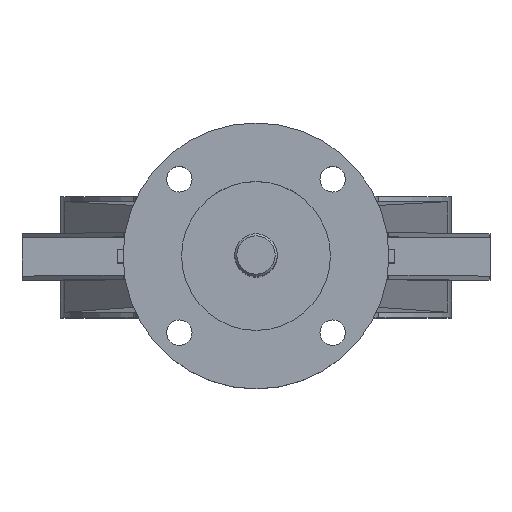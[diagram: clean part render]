
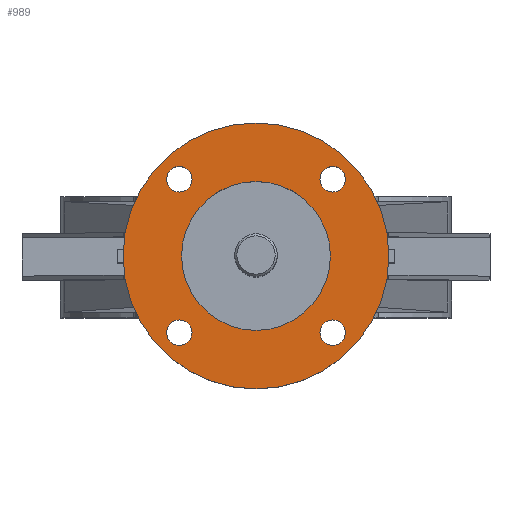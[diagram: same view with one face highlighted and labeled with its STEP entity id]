
A CAD part, top view. The second image highlights one B-rep face of the part: STEP entity #989.
In plain terms, the highlighted planar face has unit normal (0, 0, 1).
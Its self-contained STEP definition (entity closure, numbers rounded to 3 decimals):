
#989=ADVANCED_FACE('',(#2294,#2296,#2298,#2300,#2302,#2304),#2306,.T.);
#2294=FACE_BOUND('',#2295,.T.);
#2295=EDGE_LOOP('',(#3358));
#2296=FACE_BOUND('',#2297,.T.);
#2297=EDGE_LOOP('',(#3359));
#2298=FACE_BOUND('',#2299,.T.);
#2299=EDGE_LOOP('',(#3360));
#2300=FACE_BOUND('',#2301,.T.);
#2301=EDGE_LOOP('',(#3361));
#2302=FACE_BOUND('',#2303,.T.);
#2303=EDGE_LOOP('',(#3362));
#2304=FACE_BOUND('',#2305,.T.);
#2305=EDGE_LOOP('',(#3363));
#2306=PLANE('',#2307);
#2307=AXIS2_PLACEMENT_3D('',#2308,#2309,#2310);
#2308=CARTESIAN_POINT('',(0.,0.,387.));
#2309=DIRECTION('',(0.,0.,1.));
#2310=DIRECTION('',(-1.,0.,0.));
#3358=ORIENTED_EDGE('',*,*,#3765,.T.);
#3359=ORIENTED_EDGE('',*,*,#3766,.T.);
#3360=ORIENTED_EDGE('',*,*,#3767,.T.);
#3361=ORIENTED_EDGE('',*,*,#3768,.T.);
#3362=ORIENTED_EDGE('',*,*,#3916,.T.);
#3363=ORIENTED_EDGE('',*,*,#3769,.T.);
#3765=EDGE_CURVE('',#4338,#4338,#4339,.T.);
#3766=EDGE_CURVE('',#4340,#4340,#4341,.F.);
#3767=EDGE_CURVE('',#4342,#4342,#4343,.F.);
#3768=EDGE_CURVE('',#4344,#4344,#4345,.F.);
#3769=EDGE_CURVE('',#4346,#4346,#4347,.F.);
#3916=EDGE_CURVE('',#4595,#4595,#4596,.F.);
#4338=VERTEX_POINT('',#5522);
#4339=CIRCLE('',#5523,62.5);
#4340=VERTEX_POINT('',#5527);
#4341=CIRCLE('',#5528,6.);
#4342=VERTEX_POINT('',#5532);
#4343=CIRCLE('',#5533,6.);
#4344=VERTEX_POINT('',#5537);
#4345=CIRCLE('',#5538,6.);
#4346=VERTEX_POINT('',#5542);
#4347=CIRCLE('',#5543,6.);
#4595=VERTEX_POINT('',#6156);
#4596=CIRCLE('',#6157,35.);
#5522=CARTESIAN_POINT('',(-62.5,0.,387.));
#5523=AXIS2_PLACEMENT_3D('',#5524,#5525,#5526);
#5524=CARTESIAN_POINT('',(0.,0.,387.));
#5525=DIRECTION('',(0.,0.,1.));
#5526=DIRECTION('',(-1.,0.,0.));
#5527=CARTESIAN_POINT('',(-42.062,-36.062,387.));
#5528=AXIS2_PLACEMENT_3D('',#5529,#5530,#5531);
#5529=CARTESIAN_POINT('',(-36.062,-36.062,387.));
#5530=DIRECTION('',(0.,0.,1.));
#5531=DIRECTION('',(-1.,0.,0.));
#5532=CARTESIAN_POINT('',(36.062,-42.062,387.));
#5533=AXIS2_PLACEMENT_3D('',#5534,#5535,#5536);
#5534=CARTESIAN_POINT('',(36.062,-36.062,387.));
#5535=DIRECTION('',(0.,0.,1.));
#5536=DIRECTION('',(0.,-1.,0.));
#5537=CARTESIAN_POINT('',(42.062,36.062,387.));
#5538=AXIS2_PLACEMENT_3D('',#5539,#5540,#5541);
#5539=CARTESIAN_POINT('',(36.062,36.062,387.));
#5540=DIRECTION('',(0.,0.,1.));
#5541=DIRECTION('',(1.,0.,-0.));
#5542=CARTESIAN_POINT('',(-36.062,42.062,387.));
#5543=AXIS2_PLACEMENT_3D('',#5544,#5545,#5546);
#5544=CARTESIAN_POINT('',(-36.062,36.062,387.));
#5545=DIRECTION('',(0.,0.,1.));
#5546=DIRECTION('',(0.,1.,0.));
#6156=CARTESIAN_POINT('',(0.,35.,387.));
#6157=AXIS2_PLACEMENT_3D('',#6158,#6159,#6160);
#6158=CARTESIAN_POINT('',(0.,0.,387.));
#6159=DIRECTION('',(0.,0.,1.));
#6160=DIRECTION('',(0.,1.,0.));
